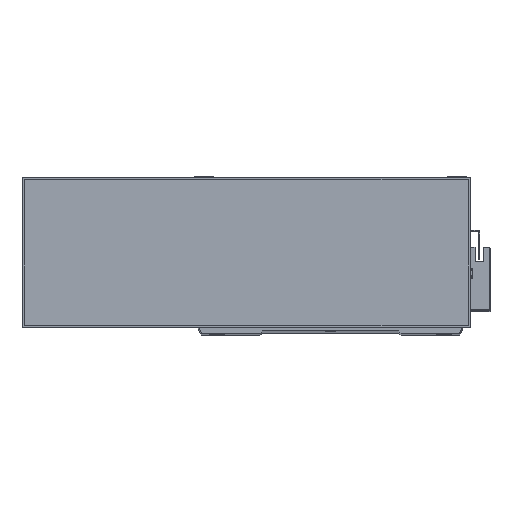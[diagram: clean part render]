
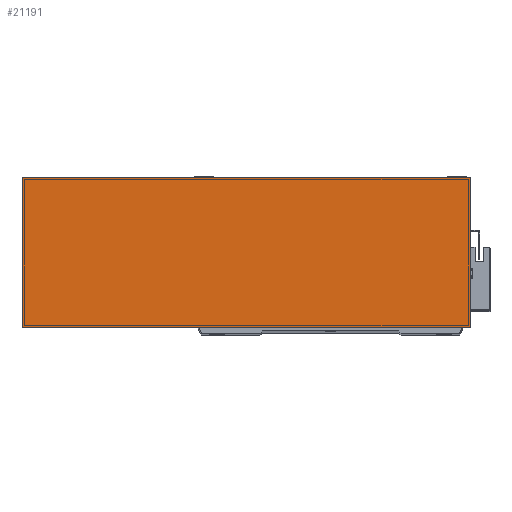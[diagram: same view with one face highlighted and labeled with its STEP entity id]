
A CAD part, top view. The second image highlights one B-rep face of the part: STEP entity #21191.
In plain terms, the highlighted planar face has unit normal (0, 0, 1).
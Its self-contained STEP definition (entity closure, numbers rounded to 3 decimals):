
#1573 = CARTESIAN_POINT ( 'NONE',  ( 0., 0., 50. ) ) ;
#2681 = VECTOR ( 'NONE', #24343, 1000. ) ;
#3752 = DIRECTION ( 'NONE',  ( -1., 0., 0. ) ) ;
#5724 = DIRECTION ( 'NONE',  ( -1., 0., 0. ) ) ;
#5907 = FACE_OUTER_BOUND ( 'NONE', #20009, .T. ) ;
#6094 = EDGE_CURVE ( 'NONE', #21802, #18852, #7044, .T. ) ;
#6168 = EDGE_CURVE ( 'NONE', #18852, #23845, #9095, .T. ) ;
#7000 = VECTOR ( 'NONE', #5724, 1000. ) ;
#7044 = LINE ( 'NONE', #21903, #16917 ) ;
#7149 = LINE ( 'NONE', #15932, #23768 ) ;
#8560 = ORIENTED_EDGE ( 'NONE', *, *, #17721, .T. ) ;
#9095 = LINE ( 'NONE', #13535, #2681 ) ;
#9195 = EDGE_CURVE ( 'NONE', #18735, #21802, #17849, .T. ) ;
#13203 = CARTESIAN_POINT ( 'NONE',  ( 0., 0., 50. ) ) ;
#13535 = CARTESIAN_POINT ( 'NONE',  ( 0., 0., 50. ) ) ;
#13621 = ORIENTED_EDGE ( 'NONE', *, *, #9195, .T. ) ;
#13674 = AXIS2_PLACEMENT_3D ( 'NONE', #1573, #16731, #3752 ) ;
#14500 = CARTESIAN_POINT ( 'NONE',  ( 0., 93., 50. ) ) ;
#15932 = CARTESIAN_POINT ( 'NONE',  ( 277., 0., 50. ) ) ;
#16731 = DIRECTION ( 'NONE',  ( 0., 0., -1. ) ) ;
#16917 = VECTOR ( 'NONE', #24079, 1000. ) ;
#17721 = EDGE_CURVE ( 'NONE', #23845, #18735, #7149, .T. ) ;
#17849 = LINE ( 'NONE', #20879, #7000 ) ;
#18107 = DIRECTION ( 'NONE',  ( 0., 1., 0. ) ) ;
#18735 = VERTEX_POINT ( 'NONE', #21460 ) ;
#18809 = PLANE ( 'NONE',  #13674 ) ;
#18852 = VERTEX_POINT ( 'NONE', #13203 ) ;
#20009 = EDGE_LOOP ( 'NONE', ( #24512, #25502, #8560, #13621 ) ) ;
#20879 = CARTESIAN_POINT ( 'NONE',  ( 0., 93., 50. ) ) ;
#21191 = ADVANCED_FACE ( 'NONE', ( #5907 ), #18809, .F. ) ;
#21460 = CARTESIAN_POINT ( 'NONE',  ( 277., 93., 50. ) ) ;
#21802 = VERTEX_POINT ( 'NONE', #14500 ) ;
#21903 = CARTESIAN_POINT ( 'NONE',  ( 0., 0., 50. ) ) ;
#22966 = CARTESIAN_POINT ( 'NONE',  ( 277., 0., 50. ) ) ;
#23768 = VECTOR ( 'NONE', #18107, 1000. ) ;
#23845 = VERTEX_POINT ( 'NONE', #22966 ) ;
#24079 = DIRECTION ( 'NONE',  ( 0., -1., 0. ) ) ;
#24343 = DIRECTION ( 'NONE',  ( 1., 0., 0. ) ) ;
#24512 = ORIENTED_EDGE ( 'NONE', *, *, #6094, .T. ) ;
#25502 = ORIENTED_EDGE ( 'NONE', *, *, #6168, .T. ) ;
